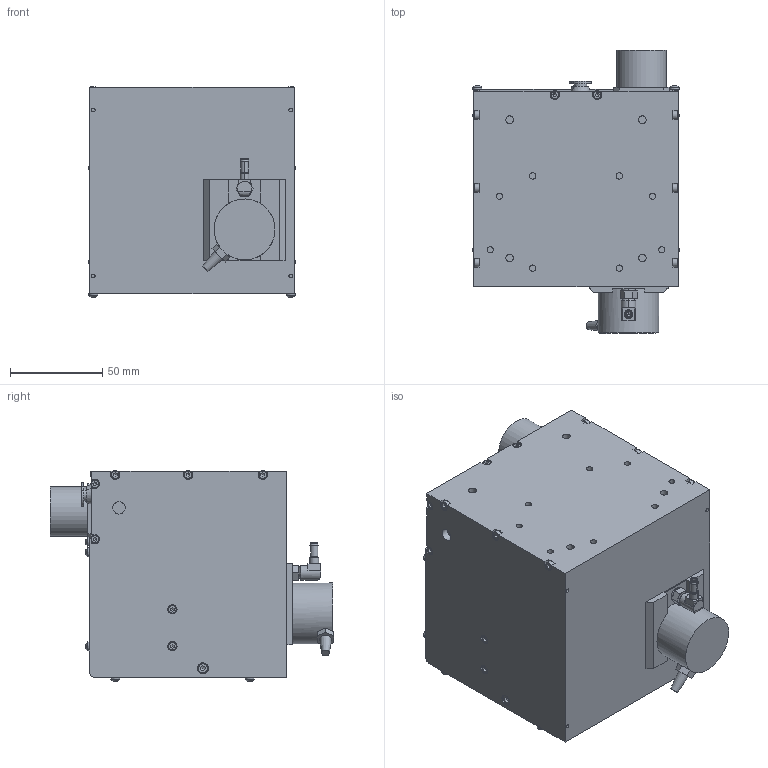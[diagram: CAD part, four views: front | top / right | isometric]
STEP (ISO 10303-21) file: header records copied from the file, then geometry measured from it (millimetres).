
FILE_DESCRIPTION((''),'2;1');
FILE_NAME('K:\ARTIKEL-3D\40.35.12 _ _\40.35.1200.stp','2011-11-03T08:54:36',('stuhrmann'),(''),'Autodesk Inventor 2012','Autodesk Inventor 2012','');
FILE_SCHEMA(('AUTOMOTIVE_DESIGN { 1 0 10303 214 1 1 1 1 }'));
Length unit declared in the file: millimetre
Products named in the file (1): Bauteil1
Bounding box: 112 x 153.8 x 114.33 mm (x, y, z)
Volume: 1363191.6 mm3; surface area: 83197.7 mm2
Topology: 1 solids, 34 shells, 837 faces, 2050 edges, 1338 vertices
Faces by surface type: plane 505, cylinder 209, cone 59, torus 54, sphere 10
Full cylindrical faces by diameter (mm): 2.013 x4, 2.275 x9, 2.459 x2, 2.5 x23, 2.7 x1, 2.9 x14, 3 x16, 3.242 x5, 3.4 x8, 3.459 x4, 4.134 x4, 4.2 x2, 4.5 x12, 5 x2, 5.5 x9, 6 x7, 6.5 x2, 6.647 x2, 27 x1, 33 x1
Entity records: 23826 total; most frequent: CARTESIAN_POINT 4804, DIRECTION 3841, ORIENTED_EDGE 3390, EDGE_CURVE 1695, AXIS2_PLACEMENT_3D 1511, VERTEX_POINT 1209, EDGE_LOOP 1184, FACE_OUTER_BOUND 837
